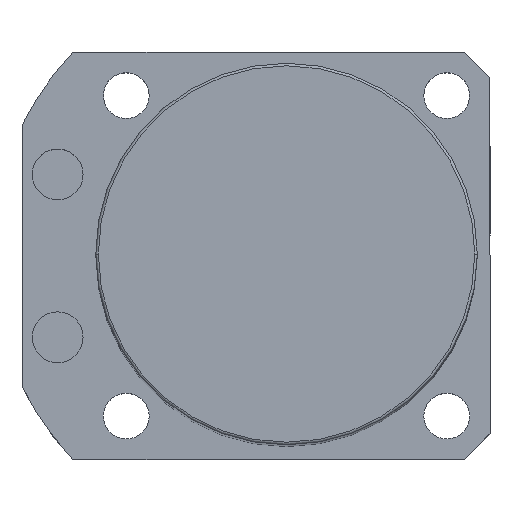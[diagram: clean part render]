
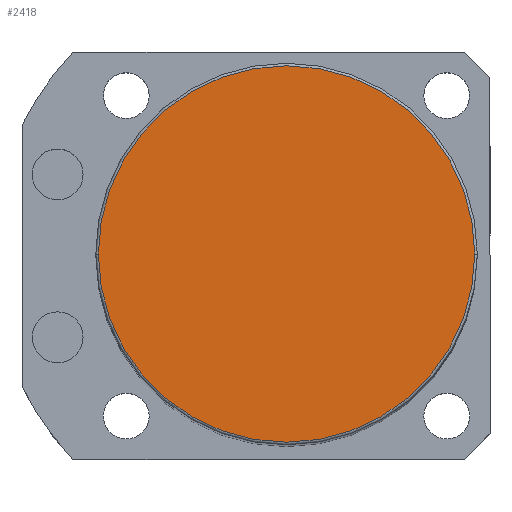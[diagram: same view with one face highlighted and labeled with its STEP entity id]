
A CAD part, top view. The second image highlights one B-rep face of the part: STEP entity #2418.
In plain terms, the highlighted planar face has unit normal (0, 0, 1).
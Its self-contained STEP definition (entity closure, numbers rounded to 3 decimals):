
#99 = FACE_OUTER_BOUND ( 'NONE', #1162, .T. ) ;
#142 = CARTESIAN_POINT ( 'NONE',  ( 0., 0., 225.5 ) ) ;
#274 = DIRECTION ( 'NONE',  ( 1., 0., 0. ) ) ;
#302 = DIRECTION ( 'NONE',  ( 1., 0., 0. ) ) ;
#311 = AXIS2_PLACEMENT_3D ( 'NONE', #142, #2033, #302 ) ;
#459 = DIRECTION ( 'NONE',  ( 0., 0., 1. ) ) ;
#528 = AXIS2_PLACEMENT_3D ( 'NONE', #1371, #2122, #2135 ) ;
#892 = ORIENTED_EDGE ( 'NONE', *, *, #1539, .T. ) ;
#959 = ORIENTED_EDGE ( 'NONE', *, *, #2029, .T. ) ;
#1162 = EDGE_LOOP ( 'NONE', ( #959, #892 ) ) ;
#1196 = CIRCLE ( 'NONE', #1219, 37. ) ;
#1219 = AXIS2_PLACEMENT_3D ( 'NONE', #2324, #459, #274 ) ;
#1356 = VERTEX_POINT ( 'NONE', #2248 ) ;
#1371 = CARTESIAN_POINT ( 'NONE',  ( 0., 0., 225.5 ) ) ;
#1539 = EDGE_CURVE ( 'NONE', #1654, #1356, #1196, .T. ) ;
#1654 = VERTEX_POINT ( 'NONE', #1726 ) ;
#1726 = CARTESIAN_POINT ( 'NONE',  ( -37., 0., 225.5 ) ) ;
#1830 = PLANE ( 'NONE',  #311 ) ;
#1956 = CIRCLE ( 'NONE', #528, 37. ) ;
#2029 = EDGE_CURVE ( 'NONE', #1356, #1654, #1956, .T. ) ;
#2033 = DIRECTION ( 'NONE',  ( 0., 0., 1. ) ) ;
#2122 = DIRECTION ( 'NONE',  ( 0., 0., 1. ) ) ;
#2135 = DIRECTION ( 'NONE',  ( 1., 0., 0. ) ) ;
#2248 = CARTESIAN_POINT ( 'NONE',  ( 37., 0., 225.5 ) ) ;
#2324 = CARTESIAN_POINT ( 'NONE',  ( 0., 0., 225.5 ) ) ;
#2418 = ADVANCED_FACE ( 'NONE', ( #99 ), #1830, .T. ) ;
